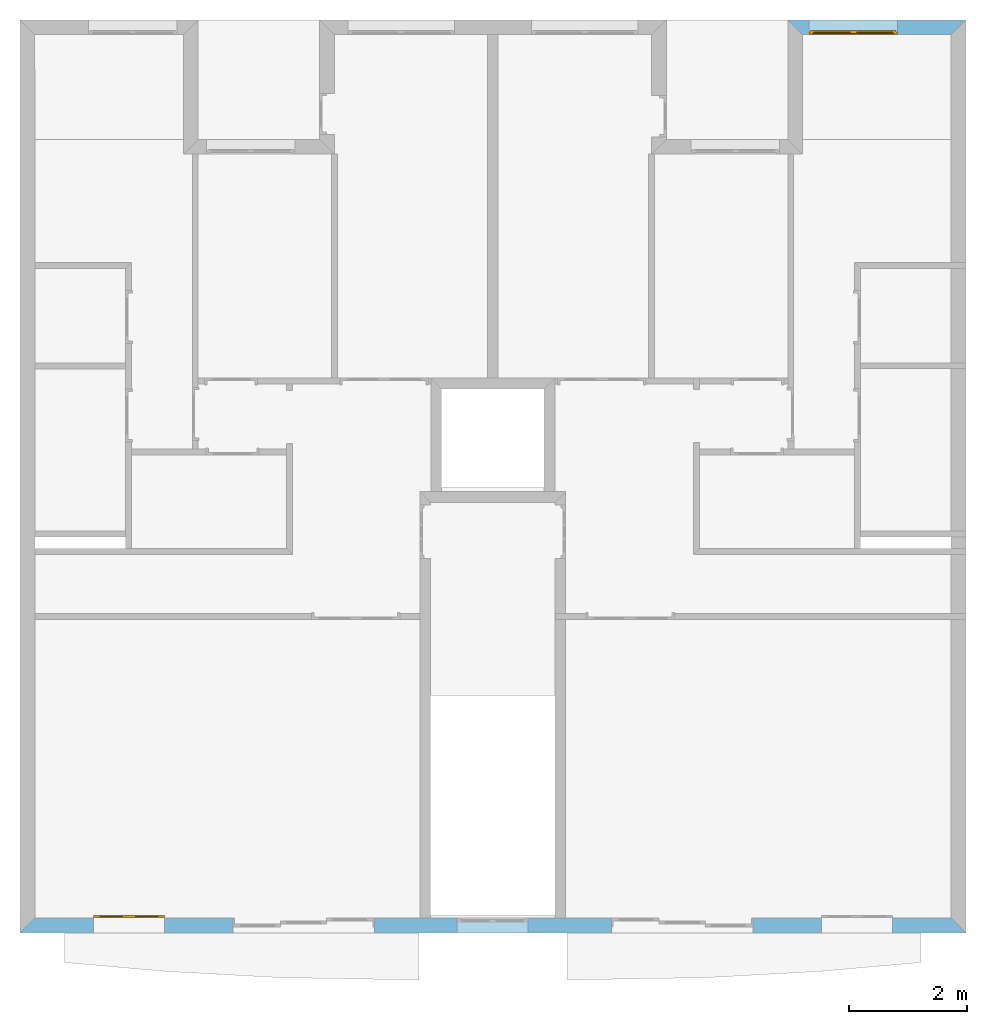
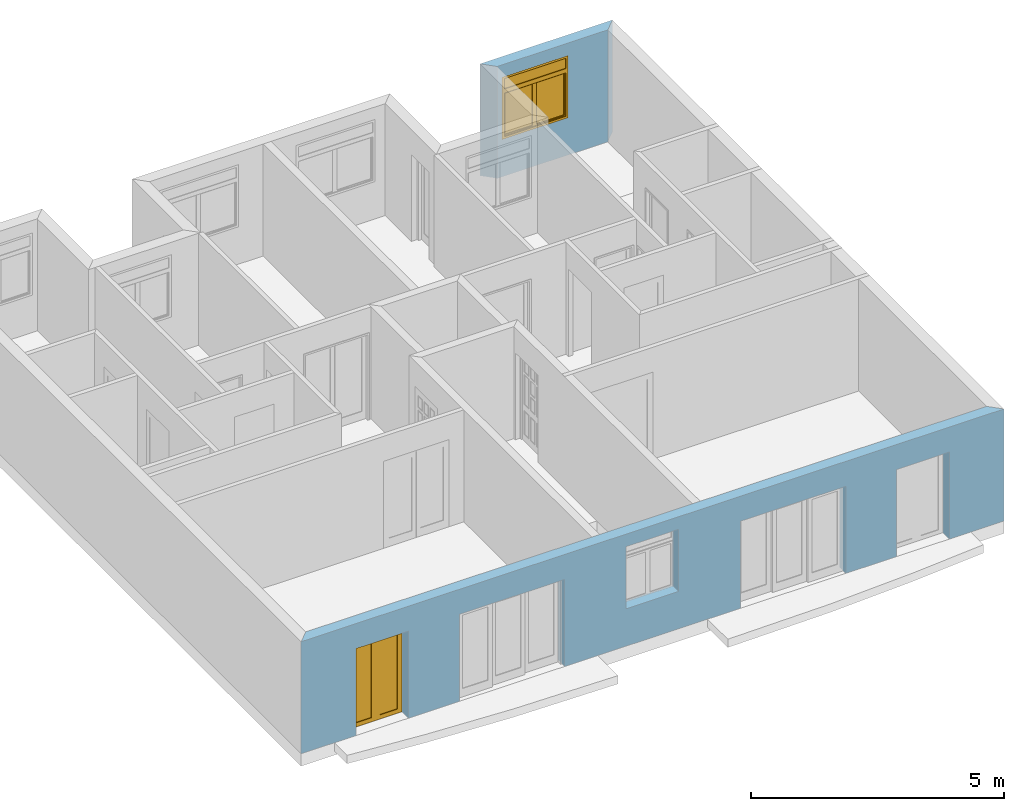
# One storey, part 11 of 11: 1 door, 1 window, 6 openings, plus 2 elements that do not belong to this part.
"""IFC2X3 building model written with IfcOpenShell, lengths in metres."""

from ifc_helpers import new_model, entity, si_unit, converted_unit, direction, frame, frame_2d, origin_with_axes, place, context, project, spatial, polyline, rectangle, outline, extrude, faceted_brep, material, layer, layer_set, layer_usage, type_object, element, fill, save


model = new_model("IFC2X3")

# Units and contexts
context_of_model = context(None, 3, precision=1e-05, world=origin_with_axes(), true_north=direction((6.123234e-17, 1.0)))
plan_context = context("Plan", 3, precision=1e-05, world=origin_with_axes(), true_north=direction((6.123234e-17, 1.0)))
model_context = context("Model", 3, precision=1e-05, world=origin_with_axes(), true_north=direction((6.123234e-17, 1.0)))
ifc_project = project(units=[si_unit("LENGTHUNIT", "METRE"), si_unit("AREAUNIT", "SQUARE_METRE"), si_unit("VOLUMEUNIT", "CUBIC_METRE"), converted_unit("PLANEANGLEUNIT", "DEGREE", entity("IfcPlaneAngleMeasure", 0.017453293), si_unit("PLANEANGLEUNIT", "RADIAN"), dimensions=[0, 0, 0, 0, 0, 0, 0]), si_unit("SOLIDANGLEUNIT", "STERADIAN"), si_unit("MASSUNIT", "GRAM"), si_unit("TIMEUNIT", "SECOND"), si_unit("THERMODYNAMICTEMPERATUREUNIT", "DEGREE_CELSIUS"), si_unit("LUMINOUSINTENSITYUNIT", "LUMEN")], contexts=[context_of_model, plan_context, model_context])

# Site, building, storey
site_placement = place(None, origin_with_axes())
site = spatial("IfcSite", under=ifc_project, at=site_placement, Name="Por defecto Sitio", CompositionType="ELEMENT")
building_placement = place(site_placement, origin_with_axes())
building = spatial("IfcBuilding", under=site, at=building_placement, Name="Por defecto Edificio", CompositionType="ELEMENT")
storey_placement = place(building_placement, frame((0.0, 0.0, 13.2), z_axis=(0.0, 0.0, 1.0), x_axis=(1.0, 0.0, 0.0)))
storey = spatial("IfcBuildingStorey", under=building, at=storey_placement, Name="Cuarta", CompositionType="ELEMENT", Elevation=13.2)

# Wall, opening, window
ifc_material = material(Name="Ladrillo común")
ifc_layer = layer(ifc_material, 0.25, ventilated="UNKNOWN")
ifc_layer_set = layer_set([ifc_layer], Name="Ladrillo común")
ifc_layer_usage_1 = layer_usage(ifc_layer_set, "AXIS2", "POSITIVE", 0.0)
wall_type = type_object("IfcWallType", Name="Ladrillo común", PredefinedType="NOTDEFINED")
wall_1_placement = place(storey_placement, frame((16.03417, 15.472599, 0.0), z_axis=(0.0, 0.0, 1.0), x_axis=(-1.0, 0.0, 0.0)))
wall_1 = element("IfcWallStandardCase", 1, at=wall_1_placement, inside=storey, type_object=wall_type, material=ifc_layer_usage_1, Name="Muro-017", context=context_of_model, shape_type="SweptSolid", body=[
    extrude(outline(polyline([(0.0, 0.0), (3.02, 0.0), (2.77, 0.25), (0.25, 0.25), (0.0, 0.0)])), origin_with_axes(), (0.0, 0.0, 1.0), 2.7),
])
opening_1_placement = place(wall_1_placement, frame((1.9075973, 0.0, 0.9), z_axis=(0.0, 0.0, 1.0), x_axis=(1.0, 0.0, 0.0)))
opening_1 = element("IfcOpeningElement", 2, at=opening_1_placement, cuts=wall_1, ObjectType="Opening", context=model_context, shape_type="SweptSolid", body=[
    extrude(rectangle(XDim=1.5, YDim=1.5, at=frame_2d((0.0, 0.75), x_axis=(1.0, 0.0))), frame((0.0, 0.0, 0.0), z_axis=(0.0, 1.0, 0.0), x_axis=(-1.0, 0.0, 0.0)), (0.0, 0.0, 1.0), 0.25),
])
window_style = type_object("IfcWindowStyle", Name="V M Doble 12", ConstructionType="NOTDEFINED", OperationType="DOUBLE_PANEL_HORIZONTAL", ParameterTakesPrecedence=False, Sizeable=False)
window_placement = place(opening_1_placement, frame((0.75, 0.25, 0.0), z_axis=(0.0, 0.0, 1.0), x_axis=(-1.0, 0.0, 0.0)))
window = element("IfcWindow", 3, at=window_placement, inside=storey, type_object=window_style, Name="V06", OverallHeight=1.5, OverallWidth=1.5, context=model_context, shape_type="Brep", body=[
    faceted_brep([(0.025, 0.05, 0.05), (0.0, 0.05, 0.05), (0.0, 0.05, 1.45), (0.05, 0.05, 1.45), (0.05, 0.05, 1.2), (0.05, 0.05, 1.125), (0.025, 0.05, 1.125), (0.025, 0.025, 0.05), (0.05, 0.025, 0.05), (0.05, 0.0, 0.05), (0.0, 0.0, 0.05), (0.0, 0.0, 1.45), (0.05, 0.0, 1.45), (0.05, 0.0, 1.2), (0.05, 0.025, 1.125), (0.05, 0.0, 1.1), (0.05, 0.025, 1.1), (0.025, 0.025, 1.125)], [[[0, 1, 2, 3, 4, 5, 6]], [[7, 8, 9, 10, 1, 0]], [[2, 1, 10, 11]], [[3, 2, 11, 12]], [[4, 3, 12, 13]], [[14, 5, 4, 13, 15, 16]], [[14, 17, 6, 5]], [[6, 17, 7, 0]], [[16, 8, 7, 17, 14]], [[16, 15, 9, 8]], [[13, 12, 11, 10, 9, 15]]]),
    faceted_brep([(1.475, 0.05, 1.125), (1.45, 0.05, 1.125), (1.45, 0.05, 1.2), (1.45, 0.05, 1.45), (1.5, 0.05, 1.45), (1.5, 0.05, 0.05), (1.475, 0.05, 0.05), (1.475, 0.025, 1.125), (1.45, 0.025, 1.125), (1.45, 0.025, 1.1), (1.45, 0.0, 1.1), (1.45, 0.0, 1.2), (1.45, 0.0, 1.45), (1.5, 0.0, 1.45), (1.5, 0.0, 0.05), (1.475, 0.025, 0.05), (1.45, 0.0, 0.05), (1.45, 0.025, 0.05)], [[[0, 1, 2, 3, 4, 5, 6]], [[0, 7, 8, 1]], [[8, 9, 10, 11, 2, 1]], [[3, 2, 11, 12]], [[4, 3, 12, 13]], [[5, 4, 13, 14]], [[15, 6, 5, 14, 16, 17]], [[6, 15, 7, 0]], [[17, 9, 8, 7, 15]], [[17, 16, 10, 9]], [[14, 13, 12, 11, 10, 16]]]),
    faceted_brep([(0.05, 0.05, 1.125), (0.05, 0.05, 1.2), (1.45, 0.05, 1.2), (1.45, 0.05, 1.125), (0.75, 0.05, 1.125), (0.05, 0.025, 1.125), (0.05, 0.025, 1.1), (0.05, 0.0, 1.1), (0.05, 0.0, 1.2), (1.45, 0.0, 1.2), (1.45, 0.025, 1.125), (1.45, 0.0, 1.1), (1.45, 0.025, 1.1), (0.75, 0.025, 1.125)], [[[0, 1, 2, 3, 4]], [[5, 6, 7, 8, 1, 0]], [[2, 1, 8, 9]], [[10, 3, 2, 9, 11, 12]], [[10, 13, 4, 3]], [[4, 13, 5, 0]], [[12, 6, 5, 13, 10]], [[12, 11, 7, 6]], [[9, 8, 7, 11]]]),
    faceted_brep([(1.45, 0.025, 0.05), (1.45, 0.0, 0.05), (1.5, 0.0, 0.05), (1.5, 0.05, 0.05), (1.475, 0.05, 0.05), (1.475, 0.025, 0.05), (0.05, 0.025, 0.05), (0.05, 0.0, 0.05), (0.0, 0.0, 0.05), (0.0, 0.0, 0.0), (1.5, 0.0, 0.0), (1.5, 0.05, 0.0), (0.025, 0.05, 0.025), (0.75, 0.05, 0.025), (1.475, 0.05, 0.025), (0.0, 0.05, 0.0), (0.0, 0.05, 0.05), (0.025, 0.05, 0.05), (1.475, 0.025, 0.025), (0.75, 0.025, 0.025), (0.025, 0.025, 0.025), (0.025, 0.025, 0.05)], [[[0, 1, 2, 3, 4, 5]], [[6, 7, 1, 0]], [[8, 9, 10, 2, 1, 7]], [[11, 3, 2, 10]], [[12, 13, 14, 4, 3, 11, 15, 16, 17]], [[14, 18, 5, 4]], [[5, 18, 19, 20, 21, 6, 0]], [[21, 17, 16, 8, 7, 6]], [[16, 15, 9, 8]], [[15, 11, 10, 9]], [[12, 20, 19, 13]], [[13, 19, 18, 14]], [[21, 20, 12, 17]]]),
    faceted_brep([(1.45, 0.0, 1.45), (1.45, 0.05, 1.45), (1.5, 0.05, 1.45), (1.5, 0.0, 1.45), (0.05, 0.0, 1.45), (0.05, 0.05, 1.45), (0.0, 0.05, 1.45), (0.0, 0.05, 1.5), (1.5, 0.05, 1.5), (1.5, 0.0, 1.5), (0.0, 0.0, 1.5), (0.0, 0.0, 1.45)], [[[0, 1, 2, 3]], [[4, 5, 1, 0]], [[1, 5, 6, 7, 8, 2]], [[3, 2, 8, 9]], [[0, 3, 9, 10, 11, 4]], [[11, 6, 5, 4]], [[10, 7, 6, 11]], [[9, 8, 7, 10]]]),
    faceted_brep([(1.425, 0.025, 0.075), (1.425, 0.025, 1.075), (1.425, 0.075, 1.075), (1.425, 0.075, 0.075), (1.475, 0.025, 0.075), (1.475, 0.025, 1.075), (1.475, 0.075, 1.075), (1.475, 0.075, 0.075)], [[[0, 1, 2, 3]], [[0, 4, 5, 1]], [[1, 5, 6, 2]], [[3, 2, 6, 7]], [[4, 0, 3, 7]], [[5, 4, 7, 6]]]),
    faceted_brep([(0.75, 0.025, 0.075), (0.75, 0.025, 1.075), (0.75, 0.075, 1.075), (0.75, 0.075, 0.075), (0.8, 0.025, 0.075), (0.8, 0.025, 1.075), (0.8, 0.075, 1.075), (0.8, 0.075, 0.075)], [[[0, 1, 2, 3]], [[0, 4, 5, 1]], [[1, 5, 6, 2]], [[3, 2, 6, 7]], [[4, 0, 3, 7]], [[5, 4, 7, 6]]]),
    faceted_brep([(0.75, 0.025, 0.025), (0.75, 0.025, 0.075), (0.75, 0.075, 0.075), (0.75, 0.075, 0.025), (1.475, 0.025, 0.025), (1.475, 0.025, 0.075), (1.425, 0.025, 0.075), (0.8, 0.025, 0.075), (0.8, 0.075, 0.075), (1.425, 0.075, 0.075), (1.475, 0.075, 0.075), (1.475, 0.075, 0.025)], [[[0, 1, 2, 3]], [[0, 4, 5, 6, 7, 1]], [[1, 7, 8, 2]], [[3, 2, 8, 9, 10, 11]], [[4, 0, 3, 11]], [[5, 4, 11, 10]], [[6, 5, 10, 9]], [[7, 6, 9, 8]]]),
    faceted_brep([(1.475, 0.025, 1.125), (1.475, 0.025, 1.075), (1.475, 0.075, 1.075), (1.475, 0.075, 1.125), (0.75, 0.025, 1.125), (0.75, 0.025, 1.075), (0.8, 0.025, 1.075), (1.425, 0.025, 1.075), (1.425, 0.075, 1.075), (0.8, 0.075, 1.075), (0.75, 0.075, 1.075), (0.75, 0.075, 1.125)], [[[0, 1, 2, 3]], [[0, 4, 5, 6, 7, 1]], [[1, 7, 8, 2]], [[3, 2, 8, 9, 10, 11]], [[4, 0, 3, 11]], [[5, 4, 11, 10]], [[6, 5, 10, 9]], [[7, 6, 9, 8]]]),
    faceted_brep([(1.425, 0.04, 0.075), (0.8, 0.04, 0.075), (0.8, 0.06, 0.075), (1.425, 0.06, 0.075), (1.425, 0.04, 1.075), (0.8, 0.04, 1.075), (0.8, 0.06, 1.075), (1.425, 0.06, 1.075)], [[[0, 1, 2, 3]], [[0, 4, 5, 1]], [[1, 5, 6, 2]], [[3, 2, 6, 7]], [[4, 0, 3, 7]], [[5, 4, 7, 6]]]),
    faceted_brep([(0.7, 0.025, 0.075), (0.7, 0.025, 1.075), (0.7, 0.075, 1.075), (0.7, 0.075, 0.075), (0.75, 0.025, 0.075), (0.75, 0.025, 1.075), (0.75, 0.075, 1.075), (0.75, 0.075, 0.075)], [[[0, 1, 2, 3]], [[0, 4, 5, 1]], [[1, 5, 6, 2]], [[3, 2, 6, 7]], [[4, 0, 3, 7]], [[5, 4, 7, 6]]]),
    faceted_brep([(0.025, 0.025, 0.075), (0.025, 0.025, 1.075), (0.025, 0.075, 1.075), (0.025, 0.075, 0.075), (0.075, 0.025, 0.075), (0.075, 0.025, 1.075), (0.075, 0.075, 1.075), (0.075, 0.075, 0.075)], [[[0, 1, 2, 3]], [[0, 4, 5, 1]], [[1, 5, 6, 2]], [[3, 2, 6, 7]], [[4, 0, 3, 7]], [[5, 4, 7, 6]]]),
    faceted_brep([(0.025, 0.025, 0.025), (0.025, 0.025, 0.075), (0.025, 0.075, 0.075), (0.025, 0.075, 0.025), (0.75, 0.025, 0.025), (0.75, 0.025, 0.075), (0.7, 0.025, 0.075), (0.075, 0.025, 0.075), (0.075, 0.075, 0.075), (0.7, 0.075, 0.075), (0.75, 0.075, 0.075), (0.75, 0.075, 0.025)], [[[0, 1, 2, 3]], [[0, 4, 5, 6, 7, 1]], [[1, 7, 8, 2]], [[3, 2, 8, 9, 10, 11]], [[4, 0, 3, 11]], [[5, 4, 11, 10]], [[6, 5, 10, 9]], [[7, 6, 9, 8]]]),
    faceted_brep([(0.75, 0.025, 1.125), (0.75, 0.025, 1.075), (0.75, 0.075, 1.075), (0.75, 0.075, 1.125), (0.025, 0.025, 1.125), (0.025, 0.025, 1.075), (0.075, 0.025, 1.075), (0.7, 0.025, 1.075), (0.7, 0.075, 1.075), (0.075, 0.075, 1.075), (0.025, 0.075, 1.075), (0.025, 0.075, 1.125)], [[[0, 1, 2, 3]], [[0, 4, 5, 6, 7, 1]], [[1, 7, 8, 2]], [[3, 2, 8, 9, 10, 11]], [[4, 0, 3, 11]], [[5, 4, 11, 10]], [[6, 5, 10, 9]], [[7, 6, 9, 8]]]),
    faceted_brep([(0.7, 0.04, 0.075), (0.075, 0.04, 0.075), (0.075, 0.06, 0.075), (0.7, 0.06, 0.075), (0.7, 0.04, 1.075), (0.075, 0.04, 1.075), (0.075, 0.06, 1.075), (0.7, 0.06, 1.075)], [[[0, 1, 2, 3]], [[0, 4, 5, 1]], [[1, 5, 6, 2]], [[3, 2, 6, 7]], [[4, 0, 3, 7]], [[5, 4, 7, 6]]]),
    faceted_brep([(1.45, 0.015, 1.2), (0.05, 0.015, 1.2), (0.05, 0.035, 1.2), (1.45, 0.035, 1.2), (1.45, 0.015, 1.45), (0.05, 0.015, 1.45), (0.05, 0.035, 1.45), (1.45, 0.035, 1.45)], [[[0, 1, 2, 3]], [[0, 4, 5, 1]], [[1, 5, 6, 2]], [[3, 2, 6, 7]], [[4, 0, 3, 7]], [[5, 4, 7, 6]]]),
])
fill(opening_1, window)

# Wall, openings, door
ifc_layer_usage_2 = layer_usage(ifc_layer_set, "AXIS2", "NEGATIVE", 0.0)
wall_2_placement = place(storey_placement, frame((16.03417, -1.1368684e-13, 0.0), z_axis=(0.0, 0.0, 1.0), x_axis=(-1.0, 7.0902852e-15, 0.0)))
wall_2 = element("IfcWallStandardCase", 4, at=wall_2_placement, inside=storey, type_object=wall_type, material=ifc_layer_usage_2, Name="Muro-011", context=context_of_model, shape_type="SweptSolid", body=[
    extrude(outline(polyline([(0.25, -0.25), (15.784178, -0.25), (16.03417, 0.0), (0.0, 0.0), (0.25, -0.25)])), origin_with_axes(), (0.0, 0.0, 1.0), 2.7),
])
opening_2_placement = place(wall_2_placement, frame((11.225136, -0.25, 0.0), z_axis=(0.0, 0.0, 1.0), x_axis=(1.0, 0.0, 0.0)))
element("IfcOpeningElement", 5, at=opening_2_placement, cuts=wall_2, ObjectType="Opening", context=model_context, shape_type="SweptSolid", body=[
    extrude(rectangle(XDim=2.4, YDim=2.1, at=frame_2d((-1.7763568e-15, 1.05), x_axis=(-1.0, 0.0))), frame((0.0, 0.0, 0.0), z_axis=(0.0, 1.0, 0.0), x_axis=(-1.0, 0.0, 0.0)), (0.0, 0.0, 1.0), 0.25),
])
opening_3_placement = place(wall_2_placement, frame((4.8090341, -0.25, 0.0), z_axis=(0.0, 0.0, 1.0), x_axis=(1.0, 0.0, 0.0)))
element("IfcOpeningElement", 6, at=opening_3_placement, cuts=wall_2, ObjectType="Opening", context=model_context, shape_type="SweptSolid", body=[
    extrude(rectangle(XDim=2.4, YDim=2.1, at=frame_2d((-1.7763568e-15, 1.05), x_axis=(-1.0, 0.0))), frame((0.0, 0.0, 0.0), z_axis=(0.0, 1.0, 0.0), x_axis=(-1.0, 0.0, 0.0)), (0.0, 0.0, 1.0), 0.25),
])
opening_4_placement = place(wall_2_placement, frame((1.8475705, -0.25, 0.0), z_axis=(0.0, 0.0, 1.0), x_axis=(1.0, 0.0, 0.0)))
element("IfcOpeningElement", 7, at=opening_4_placement, cuts=wall_2, ObjectType="Opening", context=model_context, shape_type="SweptSolid", body=[
    extrude(rectangle(XDim=1.2, YDim=2.1, at=frame_2d((-1.7763568e-15, 1.05), x_axis=(-1.0, 0.0))), frame((0.0, 0.0, 0.0), z_axis=(0.0, 1.0, 0.0), x_axis=(-1.0, 0.0, 0.0)), (0.0, 0.0, 1.0), 0.25),
])
opening_5_placement = place(wall_2_placement, frame((14.186599, -0.25, 0.0), z_axis=(0.0, 0.0, 1.0), x_axis=(1.0, 0.0, 0.0)))
opening_5 = element("IfcOpeningElement", 8, at=opening_5_placement, cuts=wall_2, ObjectType="Opening", context=model_context, shape_type="SweptSolid", body=[
    extrude(rectangle(XDim=1.2, YDim=2.1, at=frame_2d((-1.7763568e-15, 1.05), x_axis=(-1.0, 0.0))), frame((0.0, 0.0, 0.0), z_axis=(0.0, 1.0, 0.0), x_axis=(-1.0, 0.0, 0.0)), (0.0, 0.0, 1.0), 0.25),
])
opening_6_placement = place(wall_2_placement, frame((8.0241698, -0.25, 0.9), z_axis=(0.0, 0.0, 1.0), x_axis=(1.0, 0.0, 0.0)))
element("IfcOpeningElement", 9, at=opening_6_placement, cuts=wall_2, ObjectType="Opening", context=model_context, shape_type="SweptSolid", body=[
    extrude(rectangle(XDim=1.2, YDim=1.5, at=frame_2d((-1.7763568e-15, 0.75), x_axis=(-1.0, 0.0))), frame((0.0, 0.0, 0.0), z_axis=(0.0, 1.0, 0.0), x_axis=(-1.0, 0.0, 0.0)), (0.0, 0.0, 1.0), 0.25),
])
door_style = type_object("IfcDoorStyle", Name="P2 Corredera Ext 12", ConstructionType="NOTDEFINED", OperationType="DOUBLE_DOOR_SLIDING", ParameterTakesPrecedence=False, Sizeable=False)
door_placement = place(opening_5_placement, frame((0.6, 0.0, 0.0), z_axis=(0.0, 0.0, 1.0), x_axis=(-1.0, 0.0, 0.0)))
door = element("IfcDoor", 10, at=door_placement, inside=storey, type_object=door_style, Name="P31", OverallHeight=2.1, OverallWidth=1.2, context=model_context, shape_type="Brep", body=[
    faceted_brep([(1.2, 0.045, 0.1), (1.2, 0.005, 0.1), (1.1, 0.005, 0.1), (1.1, 0.045, 0.1), (1.2, 0.045, 2.0), (1.2, 0.005, 2.0), (1.1, 0.005, 2.0), (1.1, 0.045, 2.0)], [[[0, 1, 2, 3]], [[4, 5, 1, 0]], [[1, 5, 6, 2]], [[3, 2, 6, 7]], [[0, 3, 7, 4]], [[7, 6, 5, 4]]]),
    faceted_brep([(0.6, 0.045, 0.1), (0.6, 0.005, 0.1), (0.6, 0.005, 2.0), (0.6, 0.045, 2.0), (0.7, 0.045, 0.1), (0.7, 0.005, 0.1), (0.7, 0.005, 2.0), (0.7, 0.045, 2.0)], [[[0, 1, 2, 3]], [[4, 5, 1, 0]], [[1, 5, 6, 2]], [[3, 2, 6, 7]], [[0, 3, 7, 4]], [[7, 6, 5, 4]]]),
    faceted_brep([(1.2, 0.045, 0.0), (1.2, 0.005, 0.0), (0.6, 0.005, 0.0), (0.6, 0.045, 0.0), (1.2, 0.045, 0.1), (1.2, 0.005, 0.1), (1.1, 0.005, 0.1), (0.7, 0.005, 0.1), (0.6, 0.005, 0.1), (0.6, 0.045, 0.1), (0.7, 0.045, 0.1), (1.1, 0.045, 0.1)], [[[0, 1, 2, 3]], [[4, 5, 1, 0]], [[1, 5, 6, 7, 8, 2]], [[3, 2, 8, 9]], [[0, 3, 9, 10, 11, 4]], [[11, 6, 5, 4]], [[10, 7, 6, 11]], [[9, 8, 7, 10]]]),
    faceted_brep([(1.2, 0.045, 2.1), (1.2, 0.005, 2.1), (1.2, 0.005, 2.0), (1.2, 0.045, 2.0), (0.6, 0.045, 2.1), (0.6, 0.005, 2.1), (0.6, 0.005, 2.0), (0.7, 0.005, 2.0), (1.1, 0.005, 2.0), (1.1, 0.045, 2.0), (0.7, 0.045, 2.0), (0.6, 0.045, 2.0)], [[[0, 1, 2, 3]], [[4, 5, 1, 0]], [[1, 5, 6, 7, 8, 2]], [[3, 2, 8, 9]], [[0, 3, 9, 10, 11, 4]], [[11, 6, 5, 4]], [[10, 7, 6, 11]], [[9, 8, 7, 10]]]),
    faceted_brep([(1.1, 0.031, 0.1), (1.1, 0.019, 0.1), (0.7, 0.019, 0.1), (0.7, 0.031, 0.1), (1.1, 0.031, 2.0), (1.1, 0.019, 2.0), (0.7, 0.019, 2.0), (0.7, 0.031, 2.0)], [[[0, 1, 2, 3]], [[4, 5, 1, 0]], [[1, 5, 6, 2]], [[3, 2, 6, 7]], [[0, 3, 7, 4]], [[7, 6, 5, 4]]]),
    faceted_brep([(-2.4424907e-15, 0.045, 0.1), (0.1, 0.045, 0.1), (0.1, 0.005, 0.1), (-2.220446e-15, 0.005, 0.1), (-2.4424907e-15, 0.045, 2.0), (0.1, 0.045, 2.0), (0.1, 0.005, 2.0), (-2.220446e-15, 0.005, 2.0)], [[[0, 1, 2, 3]], [[0, 4, 5, 1]], [[1, 5, 6, 2]], [[3, 2, 6, 7]], [[4, 0, 3, 7]], [[5, 4, 7, 6]]]),
    faceted_brep([(0.6, 0.045, 0.1), (0.6, 0.045, 2.0), (0.6, 0.005, 2.0), (0.6, 0.005, 0.1), (0.5, 0.045, 0.1), (0.5, 0.045, 2.0), (0.5, 0.005, 2.0), (0.5, 0.005, 0.1)], [[[0, 1, 2, 3]], [[0, 4, 5, 1]], [[1, 5, 6, 2]], [[3, 2, 6, 7]], [[4, 0, 3, 7]], [[5, 4, 7, 6]]]),
    faceted_brep([(-2.4424907e-15, 0.045, 0.0), (0.6, 0.045, 0.0), (0.6, 0.005, 0.0), (-2.220446e-15, 0.005, 0.0), (-2.4424907e-15, 0.045, 0.1), (0.1, 0.045, 0.1), (0.5, 0.045, 0.1), (0.6, 0.045, 0.1), (0.6, 0.005, 0.1), (0.5, 0.005, 0.1), (0.1, 0.005, 0.1), (-2.220446e-15, 0.005, 0.1)], [[[0, 1, 2, 3]], [[0, 4, 5, 6, 7, 1]], [[1, 7, 8, 2]], [[3, 2, 8, 9, 10, 11]], [[4, 0, 3, 11]], [[5, 4, 11, 10]], [[6, 5, 10, 9]], [[7, 6, 9, 8]]]),
    faceted_brep([(-2.4424907e-15, 0.045, 2.1), (-2.4424907e-15, 0.045, 2.0), (-2.220446e-15, 0.005, 2.0), (-2.220446e-15, 0.005, 2.1), (0.6, 0.045, 2.1), (0.6, 0.045, 2.0), (0.5, 0.045, 2.0), (0.1, 0.045, 2.0), (0.1, 0.005, 2.0), (0.5, 0.005, 2.0), (0.6, 0.005, 2.0), (0.6, 0.005, 2.1)], [[[0, 1, 2, 3]], [[0, 4, 5, 6, 7, 1]], [[1, 7, 8, 2]], [[3, 2, 8, 9, 10, 11]], [[4, 0, 3, 11]], [[5, 4, 11, 10]], [[6, 5, 10, 9]], [[7, 6, 9, 8]]]),
    faceted_brep([(0.1, 0.031, 0.1), (0.5, 0.031, 0.1), (0.5, 0.019, 0.1), (0.1, 0.019, 0.1), (0.1, 0.031, 2.0), (0.5, 0.031, 2.0), (0.5, 0.019, 2.0), (0.1, 0.019, 2.0)], [[[0, 1, 2, 3]], [[0, 4, 5, 1]], [[1, 5, 6, 2]], [[3, 2, 6, 7]], [[4, 0, 3, 7]], [[5, 4, 7, 6]]]),
])
fill(opening_5, door)

save(model, "model.ifc")
